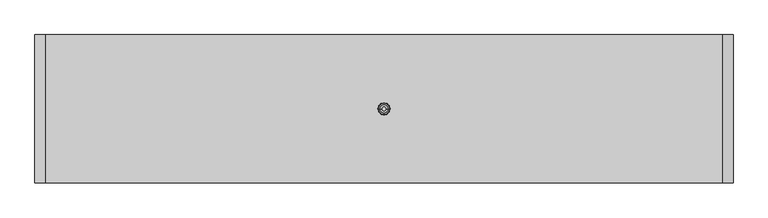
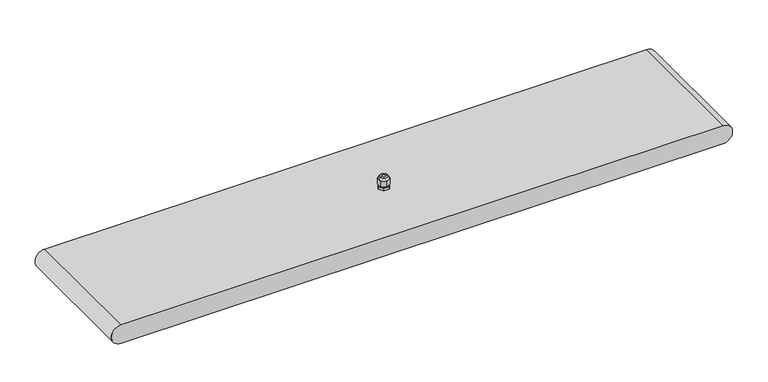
"""IFC4 building model written with IfcOpenShell, lengths in millimetres: light fixture geometry, GENILED_Светильник светодиодный_Element Низковольтный : Element 1,0x2 160Вт 12В Линза Ш2."""

from ifc_helpers import new_model, si_unit, point, frame, origin, origin_with_axes, place, context, project, spatial, polyline, circle_curve, ellipse_curve, trimmed, outline, extrude, source, transform, mapped, element, save
from ifc_brep_helpers import plane_surface, cylinder_surface, revolved_surface, advanced_brep


def light_fixture_98d0d098(model_context):
    return source(origin(), model_context, "Body", "SolidModel", [
        advanced_brep(
        [(5.85, 0.0, 52.0120269), (-5.85, 0.0, 52.0120269), (-3.5, 0.0, 52.0120269), (3.5, 0.0, 52.0120269), (8.0, 0.0, 48.0120269), (4.0, 6.9282032, 48.0120269), (-4.0, 6.9282032, 48.0120269), (-8.0, 0.0, 48.0120269), (-4.0, -6.9282032, 48.0120269), (4.0, -6.9282032, 48.0120269), (-3.5, 0.0, 48.0120269), (3.5, 0.0, 48.0120269), (8.0, 4.1231056, 48.0120269), (7.5707142, 4.8666504, 48.0120269), (0.4292858, 8.989756, 48.0120269), (-0.4292858, 8.989756, 48.0120269), (-7.5707142, 4.8666504, 48.0120269), (-8.0, 4.1231056, 48.0120269), (-8.0, -4.1231056, 48.0120269), (-7.5707142, -4.8666504, 48.0120269), (-0.4292858, -8.989756, 48.0120269), (0.4292858, -8.989756, 48.0120269), (7.5707142, -4.8666504, 48.0120269), (8.0, -4.1231056, 48.0120269), (0.4292858, 8.989756, 38.6), (7.5707142, 4.8666504, 38.6), (8.0, 4.1231056, 38.6), (8.0, -4.1231056, 38.6), (7.5707142, -4.8666504, 38.6), (0.4292858, -8.989756, 38.6), (-0.4292858, -8.989756, 38.6), (-7.5707142, -4.8666504, 38.6), (-8.0, -4.1231056, 38.6), (-8.0, 4.1231056, 38.6), (-7.5707142, 4.8666504, 38.6), (-0.4292858, 8.989756, 38.6), (-7.25, 0.0, 38.6), (7.25, 0.0, 38.6), (-7.25, 0.0, 36.6), (7.25, 0.0, 36.6), (-8.989756, -0.4292858, 36.6), (-4.8666504, -7.5707142, 36.6), (-4.1231056, -8.0, 36.6), (4.1231056, -8.0, 36.6), (4.8666504, -7.5707142, 36.6), (8.989756, -0.4292858, 36.6), (9.0, 0.0, 36.6), (8.989756, 0.4292858, 36.6), (4.8666504, 7.5707142, 36.6), (4.1231056, 8.0, 36.6), (-4.1231056, 8.0, 36.6), (-4.8666504, 7.5707142, 36.6), (-8.989756, 0.4292858, 36.6), (-9.0, 0.0, 36.6), (-8.989756, 0.4292858, 32.0), (-4.8666504, 7.5707142, 32.0), (-4.1231056, 8.0, 32.0), (4.1231056, 8.0, 32.0), (4.8666504, 7.5707142, 32.0), (8.989756, 0.4292858, 32.0), (9.0, 0.0, 32.0), (8.989756, -0.4292858, 32.0), (4.8666504, -7.5707142, 32.0), (4.1231056, -8.0, 32.0), (-4.1231056, -8.0, 32.0), (-4.8666504, -7.5707142, 32.0), (-8.989756, -0.4292858, 32.0), (-9.0, 0.0, 32.0)],
        [
            (0, 1, circle_curve(frame((0.0, 0.0, 52.0120269), z_axis=(0.0, 0.0, 1.0), x_axis=(-1.0, 0.0, 0.0)), 5.85)),
            (1, 2),
            (2, 3, circle_curve(frame((0.0, 0.0, 52.0120269), z_axis=(0.0, 0.0, -1.0), x_axis=(-1.0, 0.0, 0.0)), 3.5)),
            (3, 0),
            (1, 0, circle_curve(frame((0.0, 0.0, 52.0120269), z_axis=(0.0, 0.0, 1.0), x_axis=(-1.0, 0.0, 0.0)), 5.85)),
            (3, 2, circle_curve(frame((0.0, 0.0, 52.0120269), z_axis=(0.0, 0.0, -1.0), x_axis=(-1.0, 0.0, 0.0)), 3.5)),
            (0, 4, circle_curve(frame((2.4876149, 0.0, 47.6269324), z_axis=(0.0, 1.0, 0.0), x_axis=(-1.0, 0.0, 0.0)), 5.5258201)),
            (4, 5, circle_curve(frame((0.0, 0.0, 48.0120269), z_axis=(0.0, 0.0, 1.0), x_axis=(-1.0, 0.0, 0.0)), 8.0)),
            (5, 6, circle_curve(frame((0.0, 0.0, 48.0120269), z_axis=(0.0, 0.0, 1.0), x_axis=(-1.0, 0.0, 0.0)), 8.0)),
            (6, 7, circle_curve(frame((0.0, 0.0, 48.0120269), z_axis=(0.0, 0.0, 1.0), x_axis=(-1.0, 0.0, 0.0)), 8.0)),
            (7, 1, circle_curve(frame((-2.4876149, 0.0, 47.6269324), z_axis=(0.0, 1.0, 0.0), x_axis=(1.0, 0.0, 0.0)), 5.5258201)),
            (7, 8, circle_curve(frame((0.0, 0.0, 48.0120269), z_axis=(0.0, 0.0, 1.0), x_axis=(-1.0, 0.0, 0.0)), 8.0)),
            (8, 9, circle_curve(frame((0.0, 0.0, 48.0120269), z_axis=(0.0, 0.0, 1.0), x_axis=(-1.0, 0.0, 0.0)), 8.0)),
            (9, 4, circle_curve(frame((0.0, 0.0, 48.0120269), z_axis=(0.0, 0.0, 1.0), x_axis=(-1.0, 0.0, 0.0)), 8.0)),
            (2, 10),
            (10, 11, circle_curve(frame((0.0, 0.0, 48.0120269), z_axis=(0.0, 0.0, -1.0), x_axis=(-1.0, 0.0, 0.0)), 3.5)),
            (11, 3),
            (11, 10, circle_curve(frame((0.0, 0.0, 48.0120269), z_axis=(0.0, 0.0, -1.0), x_axis=(-1.0, 0.0, 0.0)), 3.5)),
            (4, 12),
            (12, 13, circle_curve(frame((0.0, 0.0, 48.0120269), z_axis=(0.0, 0.0, 1.0), x_axis=(1.0, 0.0, 0.0)), 9.0)),
            (13, 5),
            (5, 14),
            (14, 15, circle_curve(frame((0.0, 0.0, 48.0120269), z_axis=(0.0, 0.0, 1.0), x_axis=(1.0, 0.0, 0.0)), 9.0)),
            (15, 6),
            (6, 16),
            (16, 17, circle_curve(frame((0.0, 0.0, 48.0120269), z_axis=(0.0, 0.0, 1.0), x_axis=(1.0, 0.0, 0.0)), 9.0)),
            (17, 7),
            (7, 18),
            (18, 19, circle_curve(frame((0.0, 0.0, 48.0120269), z_axis=(0.0, 0.0, 1.0), x_axis=(1.0, 0.0, 0.0)), 9.0)),
            (19, 8),
            (8, 20),
            (20, 21, circle_curve(frame((0.0, 0.0, 48.0120269), z_axis=(0.0, 0.0, 1.0), x_axis=(1.0, 0.0, 0.0)), 9.0)),
            (21, 9),
            (9, 22),
            (22, 23, circle_curve(frame((0.0, 0.0, 48.0120269), z_axis=(0.0, 0.0, 1.0), x_axis=(1.0, 0.0, 0.0)), 9.0)),
            (23, 4),
            (24, 25),
            (25, 26, circle_curve(frame((0.0, 0.0, 38.6), z_axis=(0.0, 0.0, -1.0), x_axis=(1.0, 0.0, 0.0)), 9.0)),
            (26, 27),
            (27, 28, circle_curve(frame((0.0, 0.0, 38.6), z_axis=(0.0, 0.0, -1.0), x_axis=(1.0, 0.0, 0.0)), 9.0)),
            (28, 29),
            (29, 30, circle_curve(frame((0.0, 0.0, 38.6), z_axis=(0.0, 0.0, -1.0), x_axis=(1.0, 0.0, 0.0)), 9.0)),
            (30, 31),
            (31, 32, circle_curve(frame((0.0, 0.0, 38.6), z_axis=(0.0, 0.0, -1.0), x_axis=(1.0, 0.0, 0.0)), 9.0)),
            (32, 33),
            (33, 34, circle_curve(frame((0.0, 0.0, 38.6), z_axis=(0.0, 0.0, -1.0), x_axis=(1.0, 0.0, 0.0)), 9.0)),
            (34, 35),
            (35, 24, circle_curve(frame((0.0, 0.0, 38.6), z_axis=(0.0, 0.0, -1.0), x_axis=(1.0, 0.0, 0.0)), 9.0)),
            (36, 37, circle_curve(frame((0.0, 0.0, 38.6), z_axis=(0.0, 0.0, 1.0), x_axis=(1.0, 0.0, 0.0)), 7.25)),
            (37, 36, circle_curve(frame((0.0, 0.0, 38.6), z_axis=(0.0, 0.0, 1.0), x_axis=(1.0, 0.0, 0.0)), 7.25)),
            (15, 35),
            (34, 16),
            (17, 33),
            (32, 18),
            (19, 31),
            (30, 20),
            (21, 29),
            (28, 22),
            (23, 27),
            (26, 12),
            (13, 25),
            (24, 14),
            (36, 38),
            (38, 39, circle_curve(frame((0.0, 0.0, 36.6), z_axis=(0.0, 0.0, 1.0), x_axis=(1.0, 0.0, 0.0)), 7.25)),
            (39, 37),
            (39, 38, circle_curve(frame((0.0, 0.0, 36.6), z_axis=(0.0, 0.0, 1.0), x_axis=(1.0, 0.0, 0.0)), 7.25)),
            (40, 41),
            (41, 42, circle_curve(frame((0.0, 0.0, 36.6), z_axis=(0.0, 0.0, 1.0), x_axis=(1.0, 0.0, 0.0)), 9.0)),
            (42, 43),
            (43, 44, circle_curve(frame((0.0, 0.0, 36.6), z_axis=(0.0, 0.0, 1.0), x_axis=(1.0, 0.0, 0.0)), 9.0)),
            (44, 45),
            (45, 46, circle_curve(frame((0.0, 0.0, 36.6), z_axis=(0.0, 0.0, 1.0), x_axis=(1.0, 0.0, 0.0)), 9.0)),
            (46, 47, circle_curve(frame((0.0, 0.0, 36.6), z_axis=(0.0, 0.0, 1.0), x_axis=(1.0, 0.0, 0.0)), 9.0)),
            (47, 48),
            (48, 49, circle_curve(frame((0.0, 0.0, 36.6), z_axis=(0.0, 0.0, 1.0), x_axis=(1.0, 0.0, 0.0)), 9.0)),
            (49, 50),
            (50, 51, circle_curve(frame((0.0, 0.0, 36.6), z_axis=(0.0, 0.0, 1.0), x_axis=(1.0, 0.0, 0.0)), 9.0)),
            (51, 52),
            (52, 53, circle_curve(frame((0.0, 0.0, 36.6), z_axis=(0.0, 0.0, 1.0), x_axis=(1.0, 0.0, 0.0)), 9.0)),
            (53, 40, circle_curve(frame((0.0, 0.0, 36.6), z_axis=(0.0, 0.0, 1.0), x_axis=(1.0, 0.0, 0.0)), 9.0)),
            (54, 55),
            (55, 56, circle_curve(frame((0.0, 0.0, 32.0), z_axis=(0.0, 0.0, -1.0), x_axis=(1.0, 0.0, 0.0)), 9.0)),
            (56, 57),
            (57, 58, circle_curve(frame((0.0, 0.0, 32.0), z_axis=(0.0, 0.0, -1.0), x_axis=(1.0, 0.0, 0.0)), 9.0)),
            (58, 59),
            (59, 60, circle_curve(frame((0.0, 0.0, 32.0), z_axis=(0.0, 0.0, -1.0), x_axis=(1.0, 0.0, 0.0)), 9.0)),
            (60, 61, circle_curve(frame((0.0, 0.0, 32.0), z_axis=(0.0, 0.0, -1.0), x_axis=(1.0, 0.0, 0.0)), 9.0)),
            (61, 62),
            (62, 63, circle_curve(frame((0.0, 0.0, 32.0), z_axis=(0.0, 0.0, -1.0), x_axis=(1.0, 0.0, 0.0)), 9.0)),
            (63, 64),
            (64, 65, circle_curve(frame((0.0, 0.0, 32.0), z_axis=(0.0, 0.0, -1.0), x_axis=(1.0, 0.0, 0.0)), 9.0)),
            (65, 66),
            (66, 67, circle_curve(frame((0.0, 0.0, 32.0), z_axis=(0.0, 0.0, -1.0), x_axis=(1.0, 0.0, 0.0)), 9.0)),
            (67, 54, circle_curve(frame((0.0, 0.0, 32.0), z_axis=(0.0, 0.0, -1.0), x_axis=(1.0, 0.0, 0.0)), 9.0)),
            (40, 66),
            (65, 41),
            (42, 64),
            (63, 43),
            (44, 62),
            (61, 45),
            (47, 59),
            (58, 48),
            (49, 57),
            (56, 50),
            (51, 55),
            (54, 52),
            (67, 53),
            (46, 60),
        ],
        [
            plane_surface(frame((0.0, 0.0, 52.0120269), z_axis=(0.0, 0.0, 1.0), x_axis=(-1.0, 0.0, 0.0))),
            revolved_surface(trimmed(ellipse_curve(frame((-2.4876149, 0.0, 47.6269324), z_axis=(0.0, -1.0, 0.0), x_axis=(1.0, 0.0, 0.0)), 5.5258201, 5.5258201), [point((-5.85, 0.0, 52.0120269))], [point((-8.0, 0.0, 48.0120269))], True, "CARTESIAN"), (0.0, 0.0, 48.0120269), (0.0, 0.0, -1.0)),
            revolved_surface(polyline([(-3.5, 0.0, 48.0120269), (-3.5, 0.0, 52.0120269)]), (0.0, 0.0, 48.0120269), (0.0, 0.0, -1.0)),
            plane_surface(frame((0.0, 9.2376043, 48.0120269), z_axis=(0.0, 0.0, 1.0000000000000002), x_axis=(-0.8660254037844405, -0.49999999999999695, 0.0))),
            plane_surface(frame((0.0, 9.2376043, 38.6), z_axis=(0.0, 0.0, -1.0000000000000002), x_axis=(0.8660254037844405, 0.49999999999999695, 0.0))),
            plane_surface(frame((0.0, 9.2376043, 48.0120269), z_axis=(-0.49999999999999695, 0.8660254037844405, 0.0), x_axis=(0.0, 0.0, -1.0))),
            plane_surface(frame((-8.0, 4.6188022, 48.0120269), z_axis=(-1.0, 0.0, 0.0), x_axis=(0.0, 0.0, -1.0))),
            plane_surface(frame((-8.0, -4.6188022, 48.0120269), z_axis=(-0.5000000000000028, -0.8660254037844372, 0.0), x_axis=(0.0, 0.0, -1.0))),
            plane_surface(frame((0.0, -9.2376043, 48.0120269), z_axis=(0.49999999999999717, -0.8660254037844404, 0.0), x_axis=(0.0, 0.0, -1.0))),
            plane_surface(frame((8.0, -4.6188022, 48.0120269), z_axis=(1.0, 0.0, 0.0), x_axis=(0.0, 0.0, -1.0))),
            plane_surface(frame((8.0, 4.6188022, 48.0120269), z_axis=(0.5000000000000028, 0.8660254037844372, 0.0), x_axis=(0.0, 0.0, -1.0))),
            cylinder_surface(frame((0.0, 0.0, 36.6), z_axis=(0.0, 0.0, 1.0), x_axis=(1.0, 0.0, 0.0)), 7.25),
            plane_surface(frame((-9.2376043, 0.0, 36.6), z_axis=(0.0, 0.0, 1.0), x_axis=(0.5000000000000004, -0.8660254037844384, 0.0))),
            plane_surface(frame((-9.2376043, 0.0, 32.0), z_axis=(0.0, 0.0, -1.0), x_axis=(-0.5000000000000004, 0.8660254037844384, 0.0))),
            plane_surface(frame((-9.2376043, 0.0, 36.6), z_axis=(-0.8660254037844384, -0.5000000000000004, 0.0), x_axis=(0.0, 0.0, -1.0))),
            plane_surface(frame((-4.6188022, -8.0, 36.6), z_axis=(0.0, -1.0, 0.0), x_axis=(0.0, 0.0, -1.0))),
            plane_surface(frame((4.6188022, -8.0, 36.6), z_axis=(0.866025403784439, -0.49999999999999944, 0.0), x_axis=(0.0, 0.0, -1.0))),
            plane_surface(frame((9.2376043, 0.0, 36.6), z_axis=(0.8660254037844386, 0.5000000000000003, 0.0), x_axis=(0.0, 0.0, -1.0))),
            plane_surface(frame((4.6188022, 8.0, 36.6), z_axis=(0.0, 1.0, 0.0), x_axis=(0.0, 0.0, -1.0))),
            plane_surface(frame((-4.6188022, 8.0, 36.6), z_axis=(-0.8660254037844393, 0.49999999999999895, 0.0), x_axis=(0.0, 0.0, -1.0))),
            cylinder_surface(frame((0.0, 0.0, 32.0), z_axis=(0.0, 0.0, -1.0), x_axis=(1.0, 0.0, 0.0)), 9.0),
        ],
        [
            (0, [[1, 2, 3, 4]]),
            (0, [[-2, 5, -4, 6]]),
            (1, [[-1, 7, 8, 9, 10, 11]]),
            (1, [[-5, -11, 12, 13, 14, -7]]),
            (2, [[-3, 15, 16, 17]]),
            (2, [[-6, -17, 18, -15]]),
            (3, [[-8, 19, 20, 21]]),
            (3, [[-9, 22, 23, 24]]),
            (3, [[-10, 25, 26, 27]]),
            (3, [[-12, 28, 29, 30]]),
            (3, [[-13, 31, 32, 33]]),
            (3, [[-14, 34, 35, 36]]),
            (3, [[-16, -18]]),
            (4, [[37, 38, 39, 40, 41, 42, 43, 44, 45, 46, 47, 48], [49, 50]]),
            (5, [[-25, -24, 51, -47, 52]]),
            (6, [[-27, 53, -45, 54, -28]]),
            (7, [[-30, 55, -43, 56, -31]]),
            (8, [[-34, -33, 57, -41, 58]]),
            (9, [[-36, 59, -39, 60, -19]]),
            (10, [[-21, 61, -37, 62, -22]]),
            (11, [[63, 64, 65, -49]]),
            (11, [[-63, -50, -65, 66]]),
            (12, [[67, 68, 69, 70, 71, 72, 73, 74, 75, 76, 77, 78, 79, 80], [-64, -66]]),
            (13, [[81, 82, 83, 84, 85, 86, 87, 88, 89, 90, 91, 92, 93, 94]]),
            (14, [[-67, 95, -92, 96]]),
            (15, [[-69, 97, -90, 98]]),
            (16, [[-71, 99, -88, 100]]),
            (17, [[-74, 101, -85, 102]]),
            (18, [[-76, 103, -83, 104]]),
            (19, [[-78, 105, -81, 106]]),
            (20, [[-20, -60, -38, -61]]),
            (20, [[-23, -62, -48, -51]]),
            (20, [[-26, -52, -46, -53]]),
            (20, [[-75, -102, -84, -103]]),
            (20, [[-77, -104, -82, -105]]),
            (20, [[107, -79, -106, -94]]),
            (20, [[108, -86, -101, -73]]),
            (20, [[-29, -54, -44, -55]]),
            (20, [[-32, -56, -42, -57]]),
            (20, [[-35, -58, -40, -59]]),
            (20, [[-68, -96, -91, -97]]),
            (20, [[-70, -98, -89, -99]]),
            (20, [[-107, -93, -95, -80]]),
            (20, [[-108, -72, -100, -87]]),
        ],
    ),
        advanced_brep(
        [(496.5, -109.0, 32.0), (-496.5, -109.0, 32.0), (-496.5, -109.0, 0.0), (496.5, -109.0, 0.0), (496.5, 109.0, 32.0), (496.5, 109.0, 0.0), (-496.5, 109.0, 0.0), (-496.5, 109.0, 32.0), (-496.5, 99.0, 0.0), (-496.5, -99.0, 0.0), (496.5, -99.0, 0.0), (496.5, 99.0, 0.0), (496.5, 99.0, 2.0), (496.5, -99.0, 2.0), (-496.5, -99.0, 2.0), (-496.5, 99.0, 2.0)],
        [
            (0, 1),
            (1, 2, circle_curve(frame((-496.5, -109.0, 16.0), z_axis=(0.0, -1.0, 0.0), x_axis=(1.0, 0.0, 0.0)), 16.0)),
            (2, 3),
            (3, 0, circle_curve(frame((496.5, -109.0, 16.0), z_axis=(0.0, -1.0, 0.0), x_axis=(1.0, 0.0, 0.0)), 16.0)),
            (4, 5, circle_curve(frame((496.5, 109.0, 16.0), z_axis=(0.0, 1.0, 0.0), x_axis=(1.0, 0.0, 0.0)), 16.0)),
            (5, 6),
            (6, 7, circle_curve(frame((-496.5, 109.0, 16.0), z_axis=(0.0, 1.0, 0.0), x_axis=(1.0, 0.0, 0.0)), 16.0)),
            (7, 4),
            (0, 4),
            (7, 1),
            (6, 8),
            (8, 9),
            (9, 2),
            (9, 10),
            (10, 3),
            (5, 11),
            (11, 8),
            (10, 11),
            (12, 13),
            (13, 14),
            (14, 15),
            (15, 12),
            (15, 8),
            (11, 12),
            (14, 9),
            (13, 10),
        ],
        [
            plane_surface(frame((-496.5, -109.0, 32.0), z_axis=(0.0, -1.0, 0.0), x_axis=(-1.0, 0.0, 0.0))),
            plane_surface(frame((-496.5, 109.0, 32.0), z_axis=(0.0, 1.0, 0.0), x_axis=(1.0, 0.0, 0.0))),
            plane_surface(frame((496.5, -109.0, 32.0), z_axis=(0.0, 0.0, 1.0), x_axis=(0.0, 1.0, 0.0))),
            cylinder_surface(frame((-496.5, 109.0, 16.0), z_axis=(0.0, -1.0, 0.0), x_axis=(1.0, 0.0, 0.0)), 16.0),
            plane_surface(frame((-496.5, -109.0, 0.0), z_axis=(0.0, 0.0, -1.0), x_axis=(0.0, 1.0, 0.0))),
            cylinder_surface(frame((496.5, 109.0, 16.0), z_axis=(0.0, -1.0, 0.0), x_axis=(1.0, 0.0, 0.0)), 16.0),
            plane_surface(frame((-496.5, 99.0, 2.0), z_axis=(0.0, 0.0, -1.0), x_axis=(-1.0, 0.0, 0.0))),
            plane_surface(frame((496.5, 99.0, 2.0), z_axis=(0.0, -1.0, 0.0), x_axis=(0.0, 0.0, -1.0))),
            plane_surface(frame((-496.5, 99.0, 2.0), z_axis=(1.0, 0.0, 0.0), x_axis=(0.0, 0.0, -1.0))),
            plane_surface(frame((-496.5, -99.0, 2.0), z_axis=(0.0, 1.0, 0.0), x_axis=(0.0, 0.0, -1.0))),
            plane_surface(frame((496.5, -99.0, 2.0), z_axis=(-1.0, 0.0, 0.0), x_axis=(0.0, 0.0, -1.0))),
        ],
        [
            (0, [[1, 2, 3, 4]]),
            (1, [[5, 6, 7, 8]]),
            (2, [[-1, 9, -8, 10]]),
            (3, [[-2, -10, -7, 11, 12, 13]]),
            (4, [[-3, -13, 14, 15]]),
            (4, [[-6, 16, 17, -11]]),
            (5, [[-4, -15, 18, -16, -5, -9]]),
            (6, [[19, 20, 21, 22]]),
            (7, [[-22, 23, -17, 24]]),
            (8, [[-21, 25, -12, -23]]),
            (9, [[-20, 26, -14, -25]]),
            (10, [[-19, -24, -18, -26]]),
        ],
    ),
        extrude(outline(polyline([(496.5, 99.0), (496.5, -99.0), (-496.5, -99.0), (-496.5, 99.0), (496.5, 99.0)])), origin_with_axes(), (0.0, 0.0, 1.0), 2.0),
    ])


if __name__ == "__main__":
    model = new_model("IFC4")
    model_context = context("Model", 3, world=origin())
    ifc_project = project(units=[si_unit("LENGTHUNIT", "METRE", prefix="MILLI")], contexts=[model_context])
    site = spatial("IfcSite", under=ifc_project)
    building = spatial("IfcBuilding", under=site)
    placement = place(None, origin())
    light_fixture_shape = light_fixture_98d0d098(model_context)
    element("IfcLightFixture", 1, ObjectType="GENILED_Светильник светодиодный_Element Низковольтный : Element 1,0x2 160Вт 12В Линза Ш2", at=placement, inside=building, context=model_context, shape_type="MappedRepresentation", body=[
        mapped(light_fixture_shape, transform((0.0, 0.0, 0.0), x_axis=(1.0, 0.0, 0.0), y_axis=(0.0, 1.0, 0.0), z_axis=(0.0, 0.0, 1.0))),
    ])
    save(model, "model.ifc")
